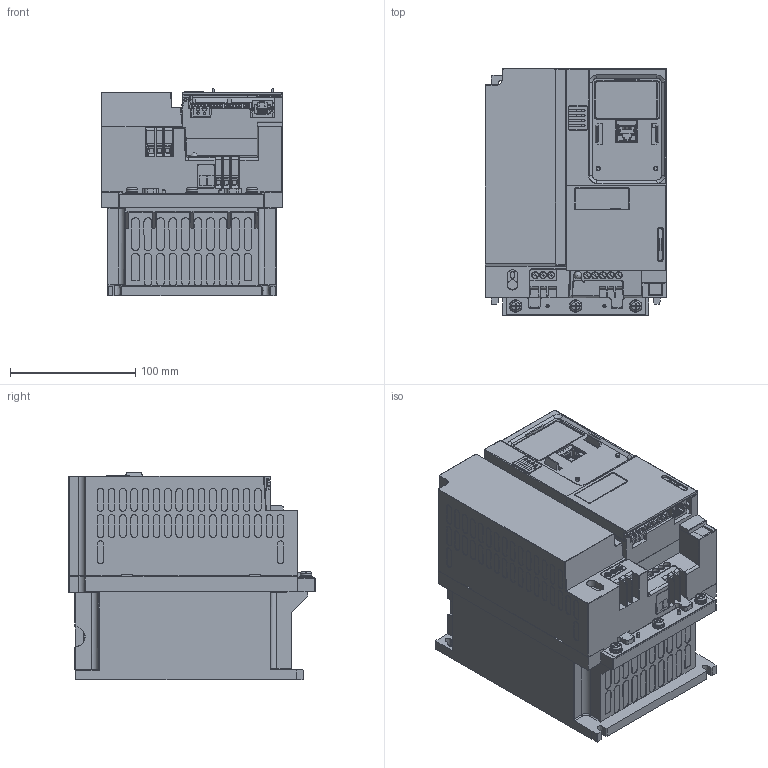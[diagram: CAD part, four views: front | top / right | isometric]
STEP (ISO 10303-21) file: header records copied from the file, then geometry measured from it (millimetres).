
FILE_DESCRIPTION(/* description */ (''),/* implementation_level */ '2;1');
FILE_NAME(/* name */ 'ATH600_S1_IP20_3D-simpl.stp',/* time_stamp */ '2026-02-10T19:34:05+01:00',/* author */ (''),/* organization */ (''),/* preprocessor_version */ 'ST-DEVELOPER v16.7',/* originating_system */ 'SIEMENS PLM Software NX 12.0',/* authorisation */ '');
FILE_SCHEMA (('AUTOMOTIVE_DESIGN { 1 0 10303 214 3 1 1 1 }'));
Products named in the file (1): ATH600_S1_IP20_3D-simpl_step
Bounding box: 145.5 x 197 x 166.04 mm (x, y, z)
Volume: 3653611 mm3; surface area: 341486.7 mm2
Topology: 5 solids, 16 shells, 5468 faces, 14909 edges, 9687 vertices
Faces by surface type: plane 3906, cylinder 971, bspline 302, cone 166, torus 63, sphere 60
Entity records: 203066 total; most frequent: CARTESIAN_POINT 67503, ORIENTED_EDGE 29696, DIRECTION 25780, EDGE_CURVE 14848, LINE 11370, VECTOR 11370, VERTEX_POINT 9658, AXIS2_PLACEMENT_3D 7205
